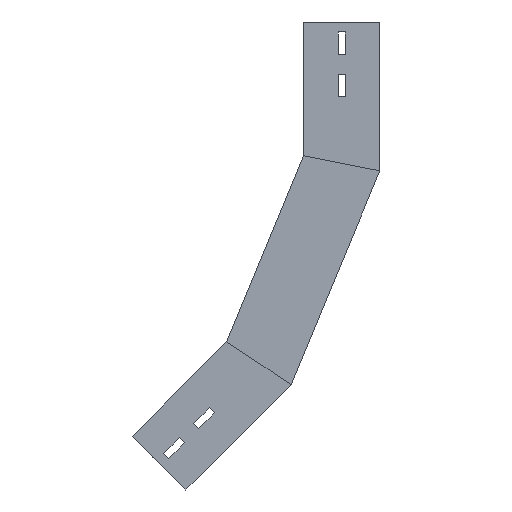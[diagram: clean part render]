
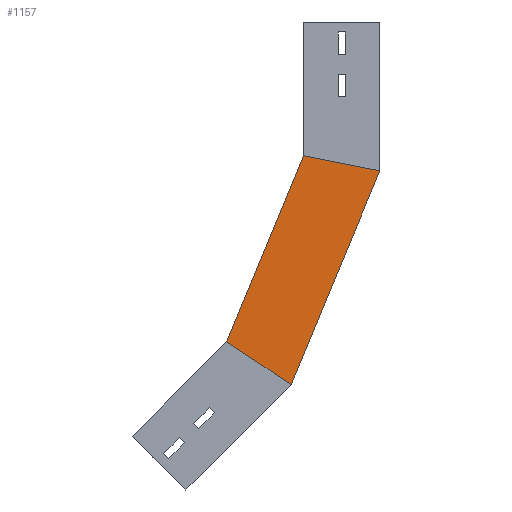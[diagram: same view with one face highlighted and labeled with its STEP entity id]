
A CAD part, left-side view. The second image highlights one B-rep face of the part: STEP entity #1157.
In plain terms, the highlighted planar face has unit normal (-1, 0, 0) as drawn and (1, 0, 0) by its records, which use the part's own axes.
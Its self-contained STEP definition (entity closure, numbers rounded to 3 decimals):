
#39 = CARTESIAN_POINT ( 'NONE',  ( 0., 0., -146.6 ) ) ;
#111 = CARTESIAN_POINT ( 'NONE',  ( 0., 0., -146.6 ) ) ;
#160 = ORIENTED_EDGE ( 'NONE', *, *, #1425, .F. ) ;
#228 = EDGE_CURVE ( 'NONE', #373, #1213, #709, .T. ) ;
#235 = CARTESIAN_POINT ( 'NONE',  ( 0., 124.345, -332.696 ) ) ;
#259 = AXIS2_PLACEMENT_3D ( 'NONE', #39, #1398, #499 ) ;
#356 = VECTOR ( 'NONE', #729, 1000. ) ;
#359 = EDGE_CURVE ( 'NONE', #859, #963, #868, .T. ) ;
#373 = VERTEX_POINT ( 'NONE', #1188 ) ;
#451 = LINE ( 'NONE', #235, #1198 ) ;
#499 = DIRECTION ( 'NONE',  ( 0., 0., 1. ) ) ;
#560 = CARTESIAN_POINT ( 'NONE',  ( 0., 75., -131.682 ) ) ;
#586 = PLANE ( 'NONE',  #259 ) ;
#699 = CARTESIAN_POINT ( 'NONE',  ( 0., 150.91, -314.945 ) ) ;
#709 = LINE ( 'NONE', #111, #807 ) ;
#729 = DIRECTION ( 'NONE',  ( 0., -0.981, -0.195 ) ) ;
#735 = FACE_OUTER_BOUND ( 'NONE', #1001, .T. ) ;
#748 = CARTESIAN_POINT ( 'NONE',  ( 0., 28.051, -141.02 ) ) ;
#759 = EDGE_CURVE ( 'NONE', #859, #373, #831, .T. ) ;
#807 = VECTOR ( 'NONE', #1246, 1000. ) ;
#831 = LINE ( 'NONE', #748, #356 ) ;
#859 = VERTEX_POINT ( 'NONE', #560 ) ;
#868 = LINE ( 'NONE', #1303, #1426 ) ;
#963 = VERTEX_POINT ( 'NONE', #699 ) ;
#1001 = EDGE_LOOP ( 'NONE', ( #1310, #1272, #1389, #160 ) ) ;
#1153 = DIRECTION ( 'NONE',  ( 0., -0.831, -0.556 ) ) ;
#1157 = ADVANCED_FACE ( 'NONE', ( #735 ), #586, .F. ) ;
#1188 = CARTESIAN_POINT ( 'NONE',  ( 0., 0., -146.6 ) ) ;
#1198 = VECTOR ( 'NONE', #1153, 1000. ) ;
#1206 = DIRECTION ( 'NONE',  ( 0., 0.383, -0.924 ) ) ;
#1213 = VERTEX_POINT ( 'NONE', #1437 ) ;
#1246 = DIRECTION ( 'NONE',  ( 0., 0.383, -0.924 ) ) ;
#1272 = ORIENTED_EDGE ( 'NONE', *, *, #759, .T. ) ;
#1303 = CARTESIAN_POINT ( 'NONE',  ( 0., 69.291, -117.899 ) ) ;
#1310 = ORIENTED_EDGE ( 'NONE', *, *, #359, .F. ) ;
#1389 = ORIENTED_EDGE ( 'NONE', *, *, #228, .T. ) ;
#1398 = DIRECTION ( 'NONE',  ( -1., 0., 0. ) ) ;
#1425 = EDGE_CURVE ( 'NONE', #963, #1213, #451, .T. ) ;
#1426 = VECTOR ( 'NONE', #1206, 1000. ) ;
#1437 = CARTESIAN_POINT ( 'NONE',  ( 0., 87.328, -357.429 ) ) ;
